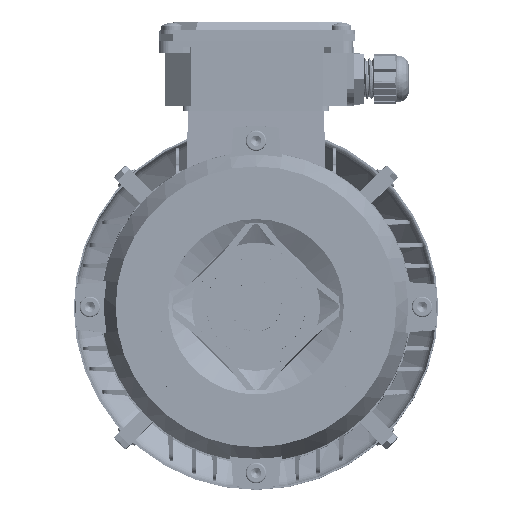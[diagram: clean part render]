
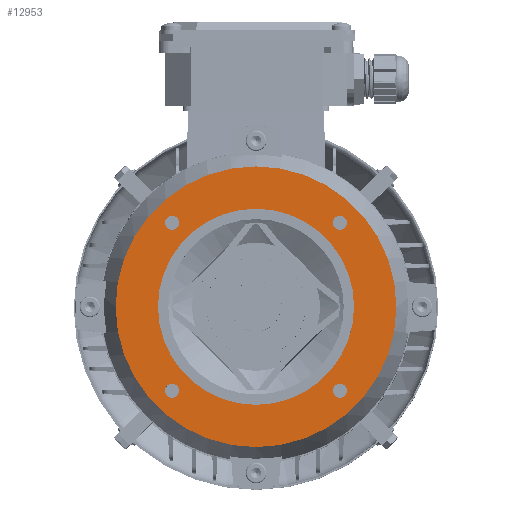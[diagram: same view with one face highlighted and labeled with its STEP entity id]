
A CAD part, top view. The second image highlights one B-rep face of the part: STEP entity #12953.
In plain terms, the highlighted planar face has unit normal (0, 0, 1) as drawn and (0, -1, 0) by its records, which use the part's own axes.
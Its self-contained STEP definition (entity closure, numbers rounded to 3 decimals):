
#1591 = EDGE_CURVE ( 'NONE', #77290, #4391, #90094, .T. ) ;
#1957 = VERTEX_POINT ( 'NONE', #111237 ) ;
#2378 = DIRECTION ( 'NONE',  ( 0., 0., -1. ) ) ;
#2772 = CIRCLE ( 'NONE', #63259, 3.4 ) ;
#2795 = CARTESIAN_POINT ( 'NONE',  ( -40.659, -10., 44.059 ) ) ;
#4169 = EDGE_LOOP ( 'NONE', ( #76178, #29498 ) ) ;
#4391 = VERTEX_POINT ( 'NONE', #93528 ) ;
#6118 = PLANE ( 'NONE',  #92051 ) ;
#9354 = EDGE_CURVE ( 'NONE', #114241, #60436, #45925, .T. ) ;
#10658 = EDGE_LOOP ( 'NONE', ( #91173, #116750 ) ) ;
#11467 = VERTEX_POINT ( 'NONE', #113643 ) ;
#12953 = ADVANCED_FACE ( 'NONE', ( #21391, #72205, #75368, #126198, #45160, #18205 ), #6118, .T. ) ;
#14796 = EDGE_CURVE ( 'NONE', #105310, #16249, #79261, .T. ) ;
#15166 = DIRECTION ( 'NONE',  ( 0., -1., 0. ) ) ;
#16249 = VERTEX_POINT ( 'NONE', #2795 ) ;
#16380 = DIRECTION ( 'NONE',  ( 0., 0., -1. ) ) ;
#18106 = EDGE_CURVE ( 'NONE', #11467, #99257, #105769, .T. ) ;
#18205 = FACE_BOUND ( 'NONE', #4169, .T. ) ;
#20250 = CARTESIAN_POINT ( 'NONE',  ( -40.659, -10., -37.259 ) ) ;
#21391 = FACE_BOUND ( 'NONE', #75191, .T. ) ;
#21545 = CARTESIAN_POINT ( 'NONE',  ( 0., -10., 0. ) ) ;
#21681 = ORIENTED_EDGE ( 'NONE', *, *, #34941, .F. ) ;
#25130 = EDGE_CURVE ( 'NONE', #128253, #75762, #2772, .T. ) ;
#25730 = CIRCLE ( 'NONE', #52524, 68. ) ;
#27198 = DIRECTION ( 'NONE',  ( 0., -1., 0. ) ) ;
#28598 = ORIENTED_EDGE ( 'NONE', *, *, #14796, .F. ) ;
#29498 = ORIENTED_EDGE ( 'NONE', *, *, #120410, .F. ) ;
#30228 = CARTESIAN_POINT ( 'NONE',  ( -40.659, -10., -40.659 ) ) ;
#30572 = ORIENTED_EDGE ( 'NONE', *, *, #38846, .F. ) ;
#31727 = DIRECTION ( 'NONE',  ( 0., 0., -1. ) ) ;
#33268 = EDGE_LOOP ( 'NONE', ( #30572, #81357 ) ) ;
#33774 = EDGE_CURVE ( 'NONE', #102299, #1957, #91106, .T. ) ;
#33892 = DIRECTION ( 'NONE',  ( 0., -1., 0. ) ) ;
#34941 = EDGE_CURVE ( 'NONE', #1957, #102299, #39982, .T. ) ;
#35296 = CARTESIAN_POINT ( 'NONE',  ( 40.659, -10., 40.659 ) ) ;
#37650 = AXIS2_PLACEMENT_3D ( 'NONE', #30228, #101258, #40402 ) ;
#38846 = EDGE_CURVE ( 'NONE', #4391, #77290, #45755, .T. ) ;
#39144 = CARTESIAN_POINT ( 'NONE',  ( 0., -10., 68. ) ) ;
#39982 = CIRCLE ( 'NONE', #127818, 3.4 ) ;
#40320 = DIRECTION ( 'NONE',  ( 0., -1., 0. ) ) ;
#40402 = DIRECTION ( 'NONE',  ( 0., 0., -1. ) ) ;
#41639 = CIRCLE ( 'NONE', #65165, 47.5 ) ;
#45160 = FACE_OUTER_BOUND ( 'NONE', #51171, .T. ) ;
#45325 = AXIS2_PLACEMENT_3D ( 'NONE', #88040, #27198, #98196 ) ;
#45516 = DIRECTION ( 'NONE',  ( 0., 0., -1. ) ) ;
#45745 = ORIENTED_EDGE ( 'NONE', *, *, #83237, .T. ) ;
#45755 = CIRCLE ( 'NONE', #72733, 3.4 ) ;
#45925 = CIRCLE ( 'NONE', #67972, 47.5 ) ;
#47223 = ORIENTED_EDGE ( 'NONE', *, *, #99138, .F. ) ;
#51171 = EDGE_LOOP ( 'NONE', ( #45745, #97127 ) ) ;
#52524 = AXIS2_PLACEMENT_3D ( 'NONE', #101164, #40320, #111404 ) ;
#52795 = CARTESIAN_POINT ( 'NONE',  ( -40.659, -10., -40.659 ) ) ;
#53012 = CIRCLE ( 'NONE', #45325, 3.4 ) ;
#54683 = CARTESIAN_POINT ( 'NONE',  ( -40.659, -10., 40.659 ) ) ;
#54688 = CARTESIAN_POINT ( 'NONE',  ( 40.659, -10., 40.659 ) ) ;
#55605 = ORIENTED_EDGE ( 'NONE', *, *, #33774, .F. ) ;
#56346 = DIRECTION ( 'NONE',  ( 0., -1., 0. ) ) ;
#59114 = EDGE_LOOP ( 'NONE', ( #55605, #21681 ) ) ;
#60436 = VERTEX_POINT ( 'NONE', #81902 ) ;
#63010 = DIRECTION ( 'NONE',  ( 0., 0., -1. ) ) ;
#63187 = DIRECTION ( 'NONE',  ( 0., -1., 0. ) ) ;
#63236 = AXIS2_PLACEMENT_3D ( 'NONE', #54683, #125743, #64902 ) ;
#63259 = AXIS2_PLACEMENT_3D ( 'NONE', #94672, #33892, #104911 ) ;
#64902 = DIRECTION ( 'NONE',  ( 0., 0., -1. ) ) ;
#64908 = DIRECTION ( 'NONE',  ( 0., 0., -1. ) ) ;
#64982 = EDGE_CURVE ( 'NONE', #75762, #128253, #91658, .T. ) ;
#65165 = AXIS2_PLACEMENT_3D ( 'NONE', #21545, #92548, #31727 ) ;
#66990 = CARTESIAN_POINT ( 'NONE',  ( 47.5, -10., 0. ) ) ;
#67972 = AXIS2_PLACEMENT_3D ( 'NONE', #75991, #15166, #86207 ) ;
#72205 = FACE_BOUND ( 'NONE', #59114, .T. ) ;
#72733 = AXIS2_PLACEMENT_3D ( 'NONE', #52795, #123830, #63010 ) ;
#75191 = EDGE_LOOP ( 'NONE', ( #28598, #47223 ) ) ;
#75368 = FACE_BOUND ( 'NONE', #33268, .T. ) ;
#75762 = VERTEX_POINT ( 'NONE', #101439 ) ;
#75991 = CARTESIAN_POINT ( 'NONE',  ( 0., -10., 0. ) ) ;
#76178 = ORIENTED_EDGE ( 'NONE', *, *, #9354, .F. ) ;
#77181 = DIRECTION ( 'NONE',  ( 0., -1., 0. ) ) ;
#77290 = VERTEX_POINT ( 'NONE', #20250 ) ;
#79261 = CIRCLE ( 'NONE', #63236, 3.4 ) ;
#81357 = ORIENTED_EDGE ( 'NONE', *, *, #1591, .F. ) ;
#81902 = CARTESIAN_POINT ( 'NONE',  ( 0., -10., 47.5 ) ) ;
#83237 = EDGE_CURVE ( 'NONE', #99257, #11467, #25730, .T. ) ;
#86207 = DIRECTION ( 'NONE',  ( 0., 0., -1. ) ) ;
#88040 = CARTESIAN_POINT ( 'NONE',  ( -40.659, -10., 40.659 ) ) ;
#90094 = CIRCLE ( 'NONE', #37650, 3.4 ) ;
#91106 = CIRCLE ( 'NONE', #110739, 3.4 ) ;
#91173 = ORIENTED_EDGE ( 'NONE', *, *, #25130, .F. ) ;
#91658 = CIRCLE ( 'NONE', #122546, 3.4 ) ;
#92051 = AXIS2_PLACEMENT_3D ( 'NONE', #66990, #77181, #16380 ) ;
#92548 = DIRECTION ( 'NONE',  ( 0., -1., 0. ) ) ;
#93528 = CARTESIAN_POINT ( 'NONE',  ( -40.659, -10., -44.059 ) ) ;
#94672 = CARTESIAN_POINT ( 'NONE',  ( 40.659, -10., -40.659 ) ) ;
#97127 = ORIENTED_EDGE ( 'NONE', *, *, #18106, .T. ) ;
#98196 = DIRECTION ( 'NONE',  ( 0., 0., -1. ) ) ;
#99138 = EDGE_CURVE ( 'NONE', #16249, #105310, #53012, .T. ) ;
#99257 = VERTEX_POINT ( 'NONE', #39144 ) ;
#101164 = CARTESIAN_POINT ( 'NONE',  ( 0., -10., 0. ) ) ;
#101258 = DIRECTION ( 'NONE',  ( 0., -1., 0. ) ) ;
#101439 = CARTESIAN_POINT ( 'NONE',  ( 40.659, -10., -37.259 ) ) ;
#102299 = VERTEX_POINT ( 'NONE', #119409 ) ;
#104911 = DIRECTION ( 'NONE',  ( 0., 0., -1. ) ) ;
#105310 = VERTEX_POINT ( 'NONE', #112056 ) ;
#105769 = CIRCLE ( 'NONE', #112836, 68. ) ;
#106344 = DIRECTION ( 'NONE',  ( 0., -1., 0. ) ) ;
#110739 = AXIS2_PLACEMENT_3D ( 'NONE', #54688, #125749, #64908 ) ;
#111237 = CARTESIAN_POINT ( 'NONE',  ( 40.659, -10., 44.059 ) ) ;
#111404 = DIRECTION ( 'NONE',  ( 0., 0., -1. ) ) ;
#112039 = CARTESIAN_POINT ( 'NONE',  ( 40.659, -10., -44.059 ) ) ;
#112056 = CARTESIAN_POINT ( 'NONE',  ( -40.659, -10., 37.259 ) ) ;
#112836 = AXIS2_PLACEMENT_3D ( 'NONE', #117176, #56346, #127372 ) ;
#113643 = CARTESIAN_POINT ( 'NONE',  ( 0., -10., -68. ) ) ;
#114241 = VERTEX_POINT ( 'NONE', #126183 ) ;
#116750 = ORIENTED_EDGE ( 'NONE', *, *, #64982, .F. ) ;
#117176 = CARTESIAN_POINT ( 'NONE',  ( 0., -10., 0. ) ) ;
#119409 = CARTESIAN_POINT ( 'NONE',  ( 40.659, -10., 37.259 ) ) ;
#120410 = EDGE_CURVE ( 'NONE', #60436, #114241, #41639, .T. ) ;
#122546 = AXIS2_PLACEMENT_3D ( 'NONE', #124020, #63187, #2378 ) ;
#123830 = DIRECTION ( 'NONE',  ( 0., -1., 0. ) ) ;
#124020 = CARTESIAN_POINT ( 'NONE',  ( 40.659, -10., -40.659 ) ) ;
#125743 = DIRECTION ( 'NONE',  ( 0., -1., 0. ) ) ;
#125749 = DIRECTION ( 'NONE',  ( 0., -1., 0. ) ) ;
#126183 = CARTESIAN_POINT ( 'NONE',  ( 0., -10., -47.5 ) ) ;
#126198 = FACE_BOUND ( 'NONE', #10658, .T. ) ;
#127372 = DIRECTION ( 'NONE',  ( 0., 0., -1. ) ) ;
#127818 = AXIS2_PLACEMENT_3D ( 'NONE', #35296, #106344, #45516 ) ;
#128253 = VERTEX_POINT ( 'NONE', #112039 ) ;
